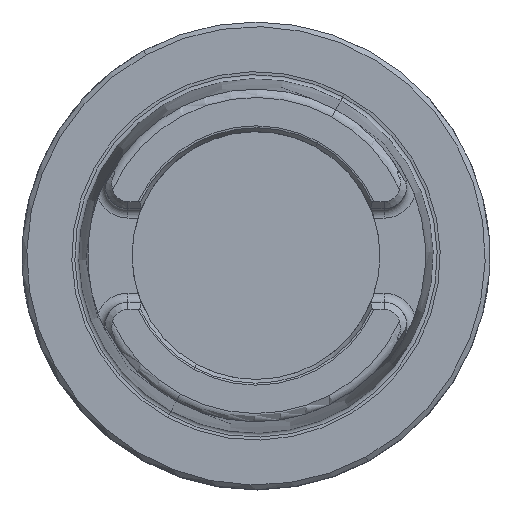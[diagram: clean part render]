
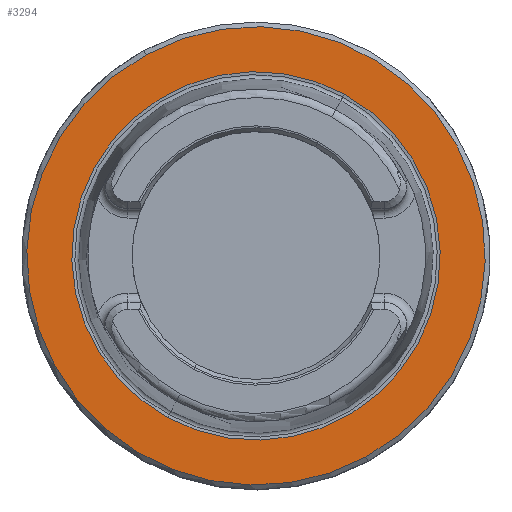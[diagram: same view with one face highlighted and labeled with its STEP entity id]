
A CAD part, top view. The second image highlights one B-rep face of the part: STEP entity #3294.
In plain terms, the highlighted planar face has unit normal (0, 0, 1).
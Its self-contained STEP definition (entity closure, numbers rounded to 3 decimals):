
#3236=AXIS2_PLACEMENT_3D('Circle Axis2P3D',#3234,#3235,$) ;
#3256=AXIS2_PLACEMENT_3D('Circle Axis2P3D',#3254,#3255,$) ;
#3270=AXIS2_PLACEMENT_3D('Plane Axis2P3D',#3267,#3268,#3269) ;
#3278=AXIS2_PLACEMENT_3D('Circle Axis2P3D',#3276,#3277,$) ;
#3287=AXIS2_PLACEMENT_3D('Circle Axis2P3D',#3285,#3286,$) ;
#3231=CARTESIAN_POINT('Vertex',(23.492,-43.002,0.)) ;
#3234=CARTESIAN_POINT('Axis2P3D Location',(0.,0.,0.)) ;
#3238=CARTESIAN_POINT('Vertex',(-23.492,43.002,0.)) ;
#3254=CARTESIAN_POINT('Axis2P3D Location',(0.,0.,0.)) ;
#3267=CARTESIAN_POINT('Axis2P3D Location',(0.,-38.285,0.)) ;
#3276=CARTESIAN_POINT('Axis2P3D Location',(0.,0.,0.)) ;
#3280=CARTESIAN_POINT('Vertex',(18.88,34.56,0.)) ;
#3282=CARTESIAN_POINT('Vertex',(-18.88,-34.56,0.)) ;
#3285=CARTESIAN_POINT('Axis2P3D Location',(0.,0.,0.)) ;
#3235=DIRECTION('Axis2P3D Direction',(0.,0.,-1.)) ;
#3255=DIRECTION('Axis2P3D Direction',(0.,0.,-1.)) ;
#3268=DIRECTION('Axis2P3D Direction',(0.,0.,-1.)) ;
#3269=DIRECTION('Axis2P3D XDirection',(-1.,0.,0.)) ;
#3277=DIRECTION('Axis2P3D Direction',(0.,0.,-1.)) ;
#3286=DIRECTION('Axis2P3D Direction',(0.,0.,-1.)) ;
#3273=ORIENTED_EDGE('',*,*,#3240,.F.) ;
#3274=ORIENTED_EDGE('',*,*,#3258,.F.) ;
#3291=ORIENTED_EDGE('',*,*,#3284,.T.) ;
#3292=ORIENTED_EDGE('',*,*,#3289,.T.) ;
#3293=FACE_BOUND('',#3290,.T.) ;
#3294=ADVANCED_FACE('NO_CUT',(#3275,#3293),#3271,.F.) ;
#3237=CIRCLE('generated circle',#3236,49.) ;
#3257=CIRCLE('generated circle',#3256,49.) ;
#3279=CIRCLE('generated circle',#3278,39.381) ;
#3288=CIRCLE('generated circle',#3287,39.381) ;
#3240=EDGE_CURVE('',#3232,#3239,#3237,.T.) ;
#3258=EDGE_CURVE('',#3239,#3232,#3257,.T.) ;
#3284=EDGE_CURVE('',#3281,#3283,#3279,.T.) ;
#3289=EDGE_CURVE('',#3283,#3281,#3288,.T.) ;
#3272=EDGE_LOOP('',(#3273,#3274)) ;
#3290=EDGE_LOOP('',(#3291,#3292)) ;
#3275=FACE_OUTER_BOUND('',#3272,.T.) ;
#3271=PLANE('',#3270) ;
#3232=VERTEX_POINT('',#3231) ;
#3239=VERTEX_POINT('',#3238) ;
#3281=VERTEX_POINT('',#3280) ;
#3283=VERTEX_POINT('',#3282) ;
